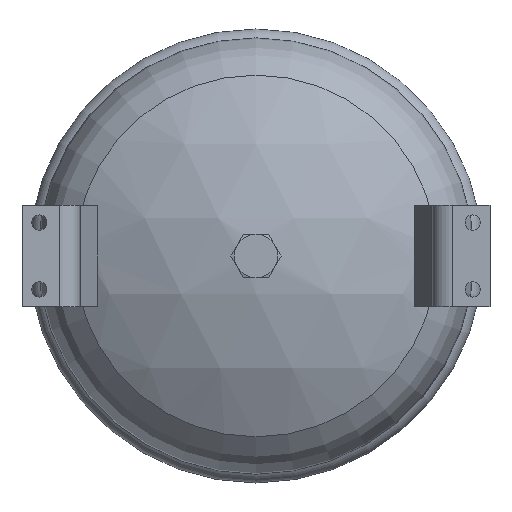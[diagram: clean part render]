
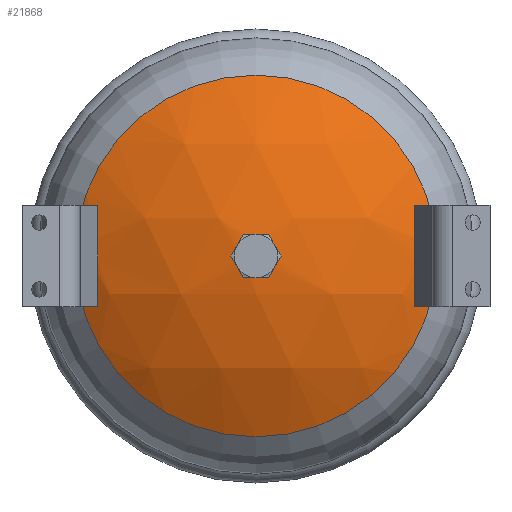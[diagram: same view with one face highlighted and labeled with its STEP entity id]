
A CAD part, front view. The second image highlights one B-rep face of the part: STEP entity #21868.
In plain terms, the highlighted spherical face has radius 244 mm.
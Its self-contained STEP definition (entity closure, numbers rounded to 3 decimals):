
#5894=FACE_BOUND('',#7318,.T.);
#5895=FACE_BOUND('',#7319,.T.);
#5896=FACE_BOUND('',#7320,.T.);
#6041=FACE_OUTER_BOUND('',#7317,.T.);
#7317=EDGE_LOOP('',(#14919));
#7318=EDGE_LOOP('',(#14920));
#7319=EDGE_LOOP('',(#14921,#14922));
#7320=EDGE_LOOP('',(#14923,#14924));
#8740=CIRCLE('',#23147,125.194);
#8741=CIRCLE('',#23148,11.25);
#8742=CIRCLE('',#23149,243.183);
#8743=CIRCLE('',#23150,23.614);
#8744=CIRCLE('',#23151,243.183);
#8745=CIRCLE('',#23152,23.614);
#9200=VERTEX_POINT('',#29979);
#9201=VERTEX_POINT('',#29981);
#9202=VERTEX_POINT('',#29983);
#9203=VERTEX_POINT('',#29984);
#9204=VERTEX_POINT('',#29987);
#9205=VERTEX_POINT('',#29988);
#11492=EDGE_CURVE('',#9200,#9200,#8740,.T.);
#11493=EDGE_CURVE('',#9201,#9201,#8741,.T.);
#11494=EDGE_CURVE('',#9202,#9203,#8742,.T.);
#11495=EDGE_CURVE('',#9203,#9202,#8743,.T.);
#11496=EDGE_CURVE('',#9204,#9205,#8744,.T.);
#11497=EDGE_CURVE('',#9205,#9204,#8745,.T.);
#14919=ORIENTED_EDGE('',*,*,#11492,.F.);
#14920=ORIENTED_EDGE('',*,*,#11493,.T.);
#14921=ORIENTED_EDGE('',*,*,#11494,.F.);
#14922=ORIENTED_EDGE('',*,*,#11495,.F.);
#14923=ORIENTED_EDGE('',*,*,#11496,.F.);
#14924=ORIENTED_EDGE('',*,*,#11497,.F.);
#21773=SPHERICAL_SURFACE('',#23146,244.);
#21868=ADVANCED_FACE('',(#6041,#5894,#5895,#5896),#21773,.T.);
#23146=AXIS2_PLACEMENT_3D('',#29978,#24878,#24879);
#23147=AXIS2_PLACEMENT_3D('',#29980,#24880,#24881);
#23148=AXIS2_PLACEMENT_3D('',#29982,#24882,#24883);
#23149=AXIS2_PLACEMENT_3D('',#29985,#24884,#24885);
#23150=AXIS2_PLACEMENT_3D('',#29986,#24886,#24887);
#23151=AXIS2_PLACEMENT_3D('',#29989,#24888,#24889);
#23152=AXIS2_PLACEMENT_3D('',#29990,#24890,#24891);
#24878=DIRECTION('center_axis',(0.,0.,-1.));
#24879=DIRECTION('ref_axis',(1.,0.,0.));
#24880=DIRECTION('center_axis',(0.,1.,0.));
#24881=DIRECTION('ref_axis',(-1.,0.,0.));
#24882=DIRECTION('center_axis',(0.,1.,0.));
#24883=DIRECTION('ref_axis',(1.,0.,0.));
#24884=DIRECTION('center_axis',(0.927,0.375,0.));
#24885=DIRECTION('ref_axis',(0.,0.,-1.));
#24886=DIRECTION('center_axis',(0.375,-0.927,0.));
#24887=DIRECTION('ref_axis',(0.,0.,-1.));
#24888=DIRECTION('center_axis',(-0.927,0.375,0.));
#24889=DIRECTION('ref_axis',(0.,0.,1.));
#24890=DIRECTION('center_axis',(-0.375,-0.927,0.));
#24891=DIRECTION('ref_axis',(0.,0.,-1.));
#29978=CARTESIAN_POINT('Origin',(0.,83.8,0.));
#29979=CARTESIAN_POINT('',(-125.194,-125.634,0.));
#29980=CARTESIAN_POINT('Origin',(0.,-125.634,
0.));
#29981=CARTESIAN_POINT('',(-11.25,-159.941,0.));
#29982=CARTESIAN_POINT('Origin',(0.,-159.941,
0.));
#29983=CARTESIAN_POINT('',(109.474,-133.897,12.631));
#29984=CARTESIAN_POINT('',(109.474,-133.897,-12.631));
#29985=CARTESIAN_POINT('Origin',(18.499,91.274,0.));
#29986=CARTESIAN_POINT('Origin',(90.975,-141.371,0.));
#29987=CARTESIAN_POINT('',(-109.474,-133.897,-12.631));
#29988=CARTESIAN_POINT('',(-109.474,-133.897,12.631));
#29989=CARTESIAN_POINT('Origin',(-18.499,91.274,0.));
#29990=CARTESIAN_POINT('Origin',(-90.975,-141.371,0.));
